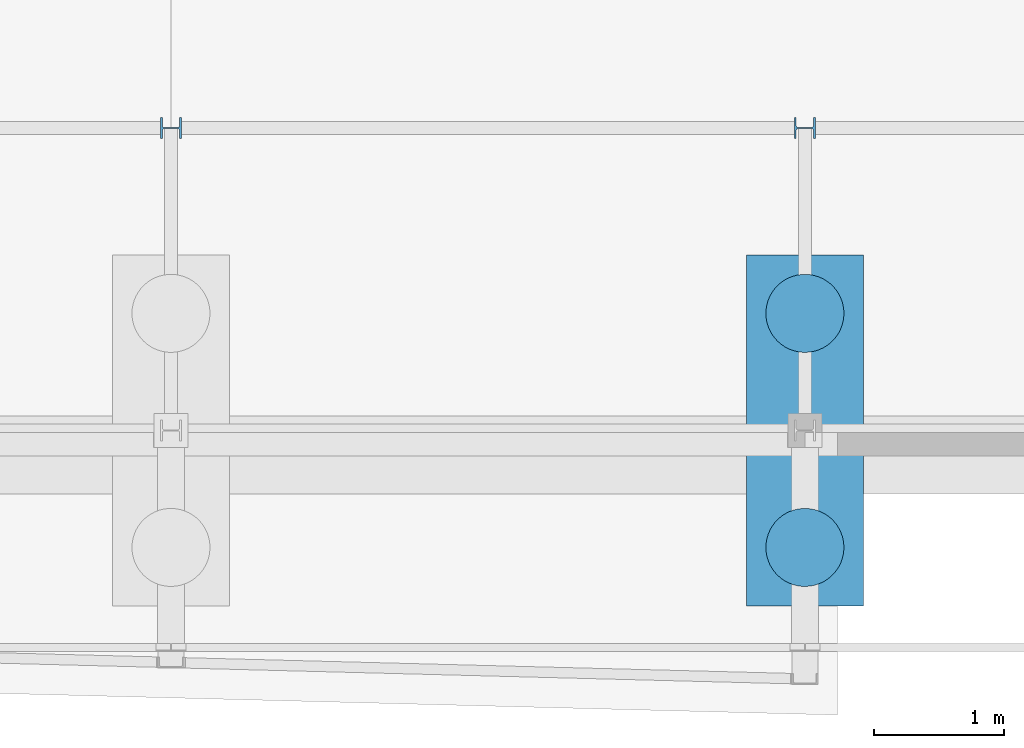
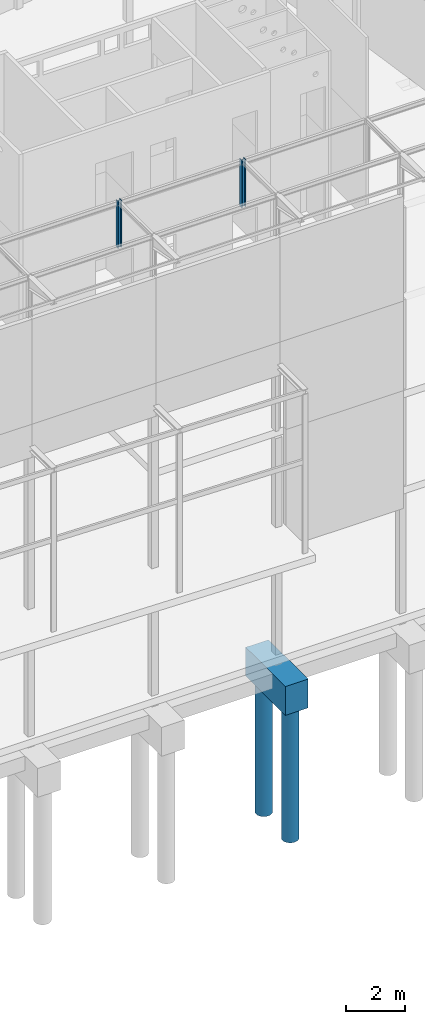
# One storey, part 43 of 82: 5 columns.
"""IFC2X3 building model written with IfcOpenShell, lengths in millimetres."""

from ifc_helpers import new_model, si_unit, frame, frame_2d, origin_with_axes, place, context, subcontext, project, spatial, rectangle, circle, i_section, extrude, material, type_object, element, save


model = new_model("IFC2X3")

# Units and contexts
model_context = context("Model", 3, precision=1e-05, world=origin_with_axes())
body_context = subcontext(model_context, "Body", "Model", "MODEL_VIEW")
ifc_project = project(units=[si_unit("LENGTHUNIT", "METRE", prefix="MILLI"), si_unit("AREAUNIT", "SQUARE_METRE"), si_unit("VOLUMEUNIT", "CUBIC_METRE"), si_unit("MASSUNIT", "GRAM", prefix="KILO"), si_unit("TIMEUNIT", "SECOND"), si_unit("PLANEANGLEUNIT", "RADIAN"), si_unit("SOLIDANGLEUNIT", "STERADIAN"), si_unit("THERMODYNAMICTEMPERATUREUNIT", "DEGREE_CELSIUS"), si_unit("LUMINOUSINTENSITYUNIT", "LUMEN")], contexts=[model_context])

# Site, building, storey
site_placement = place(None, origin_with_axes())
site = spatial("IfcSite", under=ifc_project, at=site_placement, Name="Undefined", CompositionType="ELEMENT")
building_placement = place(site_placement, origin_with_axes())
building = spatial("IfcBuilding", under=site, at=building_placement, Name="Undefined", CompositionType="ELEMENT")
storey_placement = place(building_placement, origin_with_axes())
storey = spatial("IfcBuildingStorey", under=building, at=storey_placement, Name="Undefined", CompositionType="ELEMENT", Elevation=0.0)

# Columns
ifc_material_1 = material(Name="STEEL/S275JR")
column_type_1 = type_object("IfcColumnType", Name="HEB160", PredefinedType="NOTDEFINED")
for number, where, z_axis, x_axis, name in (
    (1, (51975.0000011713, 2324.99999960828, 17160.0), (0.0, 0.0, 1.0), (1.0, 0.0, 0.0), "POTEAU"),
    (2, (47100.0000011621, 2324.99999961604, 17160.0), (0.0, 0.0, 1.0), (1.0, 0.0, 0.0), "POTEAU"),
):
    element("IfcColumn", number, at=place(storey_placement, frame(where, z_axis=z_axis, x_axis=x_axis)), inside=storey, type_object=column_type_1, material=ifc_material_1, Name=name, ObjectType="HEB160", context=body_context, shape_type="SweptSolid", body=[
        extrude(i_section(OverallWidth=160.0, OverallDepth=160.0, WebThickness=8.0, FlangeThickness=13.0, FilletRadius=15.0, at=frame_2d((5.17284206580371e-08, 4.49290382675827e-10), x_axis=(1.0, 0.0))), frame((0.0, 0.0, 1965.0), z_axis=(0.0, -6.50000002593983e-08, -0.999999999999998), x_axis=(-2.77555756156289e-17, -1.0, 0.0)), (0.0, 0.0, 1.0), 1965.0),
    ])
ifc_material_2 = material(Name="CONCRETE/C30/37")
column_type_2 = type_object("IfcColumnType", Name="2700*900", PredefinedType="NOTDEFINED")
column_placement = place(storey_placement, frame((51975.0000000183, -1.98933747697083e-07, -1650.0), z_axis=(0.0, 0.0, 1.0), x_axis=(1.0, 0.0, 0.0)))
element("IfcColumn", 3, at=column_placement, inside=storey, type_object=column_type_2, material=ifc_material_2, Name="SEMELLE", ObjectType="2700*900", context=body_context, shape_type="SweptSolid", body=[
    extrude(rectangle(XDim=900.0, YDim=2700.0, at=frame_2d((5.17284206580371e-08, 4.49290382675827e-10), x_axis=(1.0, 0.0))), frame((0.0, 0.0, 1200.0), z_axis=(0.0, -6.50000002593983e-08, -0.999999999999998), x_axis=(-1.0, 0.0, 0.0)), (0.0, 0.0, 1.0), 1200.0),
])
ifc_material_3 = material(Name="CONCRETE/C25/30")
column_type_3 = type_object("IfcColumnType", Name="D600", PredefinedType="NOTDEFINED")
for number, where, z_axis, x_axis in (
    (4, (51974.9999999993, -900.000000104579, -7175.0), (0.0, 0.0, 1.0), (1.0, 0.0, 0.0)),
    (5, (51974.9999999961, 899.999999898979, -7175.0), (0.0, 0.0, 1.0), (1.0, 0.0, 0.0)),
):
    element("IfcColumn", number, at=place(storey_placement, frame(where, z_axis=z_axis, x_axis=x_axis)), inside=storey, type_object=column_type_3, material=ifc_material_3, Name="PIEU", ObjectType="D600", context=body_context, shape_type="SweptSolid", body=[
        extrude(circle(Radius=300.0, at=frame_2d((5.17284206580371e-08, 4.49290382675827e-10), x_axis=(1.0, 0.0))), frame((0.0, 0.0, 5750.0), z_axis=(0.0, -6.50000002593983e-08, -0.999999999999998), x_axis=(-1.0, 0.0, 0.0)), (0.0, 0.0, 1.0), 5750.0),
    ])

save(model, "model.ifc")
